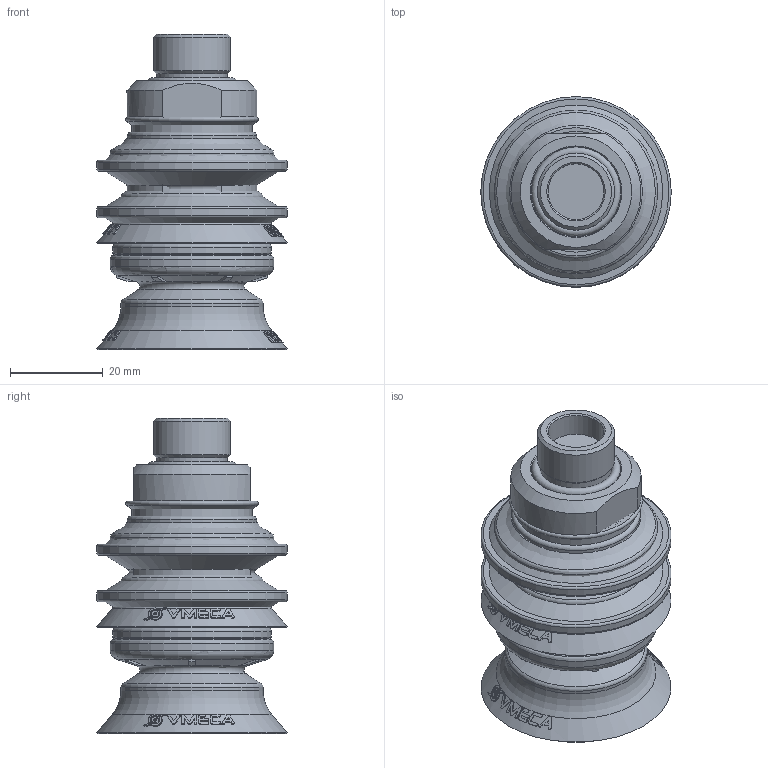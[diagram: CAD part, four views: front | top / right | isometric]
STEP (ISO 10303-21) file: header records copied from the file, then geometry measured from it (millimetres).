
FILE_DESCRIPTION( ( 'Unknown' ), '1' );
FILE_NAME( 'C:/Documents and Settings/Administrator/官帕 拳搁/Magic Cup (Dim)/B2.5/DD TYPE/B2.5-40/B2.5-40-DD4030-N6-D-F2-38M.stp', 'Unknown', ( 'Unknown' ), ( 'Unknown' ), 'XStep 1.0', 'Unknown', ' ' );
FILE_SCHEMA( ( 'automotive_design' ) );
Length unit declared in the file: millimetre
Products named in the file (8): Assem1; Assem2; Assem3; MBL4030; 赤40 STOPPER ; B2.5-40; 40-38M(DIM); 38M-Oring(DIM)
Bounding box: 41 x 41 x 67.89 mm (x, y, z)
Volume: 80004.7 mm3; surface area: 68045 mm2
Topology: 15 solids, 15 shells, 1842 faces, 4884 edges, 3171 vertices
Faces by surface type: plane 465, bspline 426, cylinder 357, cone 333, torus 261
Full cylindrical faces by diameter (mm): 12 x3, 15.3 x3, 16 x3, 16.6 x3, 19.3 x3, 21 x6, 21.5 x6, 22 x3, 24 x6, 24.831 x3, 26 x3, 27.8 x3, 27.821 x3, 30.6 x3, 34.2 x3, 35.2 x3, 41 x6
Entity records: 25227 total; most frequent: CARTESIAN_POINT 10432, ORIENTED_EDGE 3036, DIRECTION 1926, EDGE_CURVE 1518, VERTEX_POINT 1045, B_SPLINE_CURVE_WITH_KNOTS 901, AXIS2_PLACEMENT_3D 829, EDGE_LOOP 751
